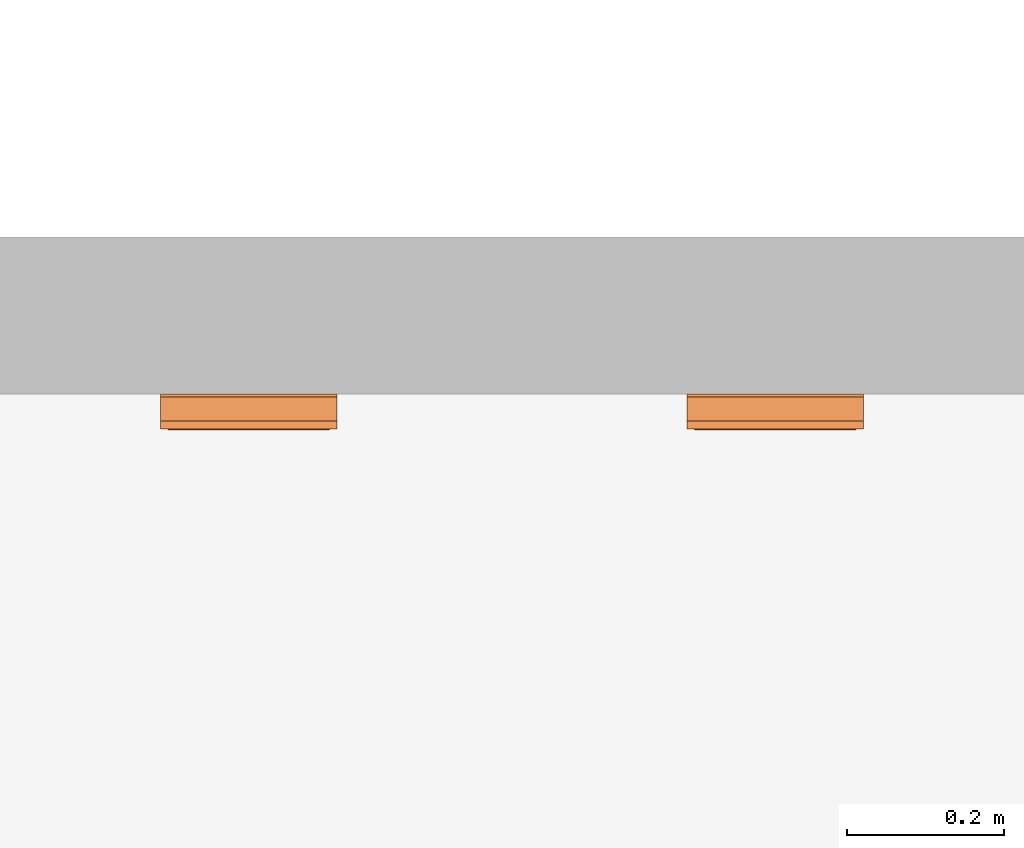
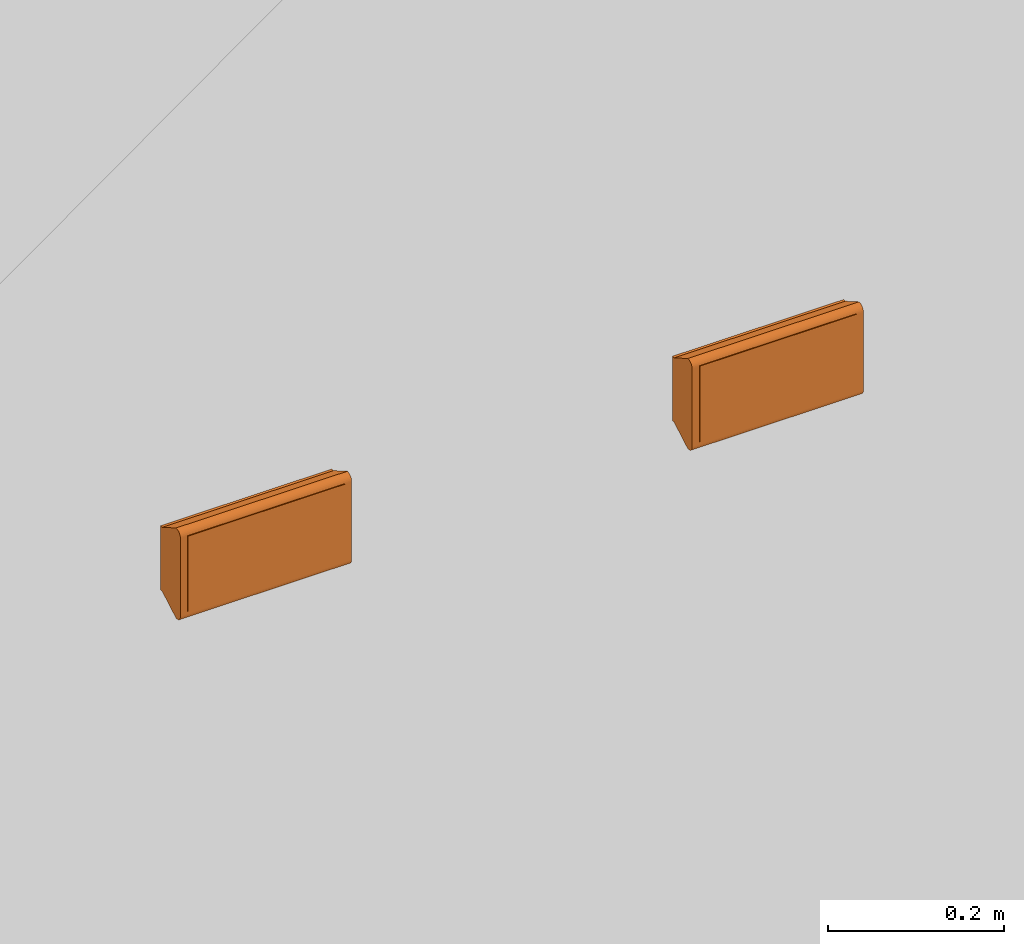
# One storey, part 66 of 197: 2 proxies.
"""IFC2X3 building model written with IfcOpenShell, lengths in metres."""

from ifc_helpers import new_model, entity, si_unit, converted_unit, direction, frame, frame_2d, origin, place, context, subcontext, project, spatial, polyline, circle_curve, parameter, trimmed, segment, composite_curve, circle, outline, extrude, source, transform, mapped, material, material_list, type_object, type_shapes, element, save


model = new_model("IFC2X3")

# Units and contexts
model_context = context("Model", 3, precision=1e-05, world=origin(), true_north=direction((6.123031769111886e-17, 1.0)))
body_context = subcontext(model_context, "Body", "Model", "MODEL_VIEW")
ifc_project = project(units=[si_unit("LENGTHUNIT", "METRE"), converted_unit("PLANEANGLEUNIT", "DEGREE", entity("IfcPlaneAngleMeasure", 0.017453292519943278), si_unit("PLANEANGLEUNIT", "RADIAN"), dimensions=[0, 0, 0, 0, 0, 0, 0]), si_unit("AREAUNIT", "SQUARE_METRE")], contexts=[model_context])

# Site, building, storey
site_placement = place(None, origin())
site = spatial("IfcSite", under=ifc_project, at=site_placement, Name="Default", CompositionType="ELEMENT")
building_placement = place(site_placement, origin())
building = spatial("IfcBuilding", under=site, at=building_placement, CompositionType="ELEMENT")
storey_placement = place(building_placement, origin())
storey = spatial("IfcBuildingStorey", under=building, at=storey_placement, Name="Niveau 0", CompositionType="ELEMENT", Elevation=0.0)

# Proxies
ifc_material_1 = material(Name="BETCE-ENVELOPPE BAES-BLANC")
ifc_material_2 = material(Name="BETCE-ETIQUETTE-VERT 0-193-0")
ifc_material_3 = material(Name="BETCE-VITRE BAES-BLEU")
ifc_material_list = material_list([ifc_material_1, ifc_material_2, ifc_material_3])
building_element_proxy_type_1 = type_object("IfcBuildingElementProxyType", Name="Eclairage de sécurité saillie étanche mur:GAUCHE", PredefinedType="NOTDEFINED", material=ifc_material_list)
shared_shape_1 = source(origin(), body_context, "Body", "SweptSolid", [
    extrude(outline(polyline([(-0.028959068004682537, -0.03330292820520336), (0.0122311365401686, -0.03330292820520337), (0.029966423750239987, -0.012907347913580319), (0.00310324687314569, -0.012907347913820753), (0.03240502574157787, 0.020789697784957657), (0.016088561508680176, 0.034977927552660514), (-0.013213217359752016, 0.0012808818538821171), (-0.016943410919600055, 0.02788381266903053), (-0.03467869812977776, 0.007488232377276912), (-0.028959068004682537, -0.03330292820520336)])), frame((-0.045353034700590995, -0.04599999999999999, 0.0), z_axis=(0.0, 1.0, 0.0), x_axis=(0.6561787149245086, 0.0, 0.7546055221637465)), (0.0, 0.0, 1.0), 0.0010000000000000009),
    extrude(outline(composite_curve([segment(trimmed(circle_curve(frame_2d((0.007847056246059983, -0.014059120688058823), x_axis=(-0.6437060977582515, 0.7652728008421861)), 0.0006110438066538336), [parameter(99.86253538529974)], [parameter(179.99999999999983)], True, "PARAMETER"), True, "CONTINUOUS"), segment(trimmed(circle_curve(frame_2d((0.007847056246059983, -0.014059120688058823), x_axis=(-0.6437060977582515, 0.7652728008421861)), 0.0006110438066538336), [parameter(179.99999999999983)], [parameter(260.13746546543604)], True, "PARAMETER"), True, "CONTINUOUS"), segment(polyline([(0.008375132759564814, -0.013751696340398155), (0.001174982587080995, -0.001383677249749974)]), True, "CONTINUOUS"), segment(trimmed(circle_curve(frame_2d((0.0037627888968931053, -0.0003180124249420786), x_axis=(-0.6437060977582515, 0.7652728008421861)), 0.002798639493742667), [parameter(3.811576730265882e-11)], [parameter(72.31324887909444)], True, "PARAMETER"), False, "CONTINUOUS"), segment(polyline([(0.0019612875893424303, 0.0018237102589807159), (0.015386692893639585, 0.013116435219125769)]), True, "CONTINUOUS"), segment(polyline([(0.015386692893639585, 0.013116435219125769), (0.0035080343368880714, 0.027238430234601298)]), True, "CONTINUOUS"), segment(polyline([(0.0035080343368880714, 0.027238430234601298), (-0.024968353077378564, 0.0032856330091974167)]), True, "CONTINUOUS"), segment(polyline([(-0.024968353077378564, 0.0032856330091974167), (-0.021131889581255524, -0.001275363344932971)]), True, "CONTINUOUS"), segment(polyline([(-0.021131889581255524, -0.001275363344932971), (0.007453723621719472, -0.01452673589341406)]), True, "CONTINUOUS")], self_intersect=False)), frame((0.04943108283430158, -0.04599999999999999, -0.024210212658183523), z_axis=(0.0, 1.0, 0.0), x_axis=(0.7652728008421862, 0.0, 0.6437060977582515)), (0.0, 0.0, 1.0), 0.001000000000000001),
    extrude(outline(composite_curve([segment(polyline([(-0.011174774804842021, -0.003797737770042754), (-0.011174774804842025, -0.010138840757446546)]), True, "CONTINUOUS"), segment(polyline([(-0.011174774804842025, -0.010138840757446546), (0.03194487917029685, -0.010138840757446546)]), True, "CONTINUOUS"), segment(polyline([(0.03194487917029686, -0.010138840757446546), (0.03194487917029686, -0.0024869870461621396)]), True, "CONTINUOUS"), segment(polyline([(0.03194487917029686, -0.0024869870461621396), (0.026012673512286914, -0.0024869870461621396)]), True, "CONTINUOUS"), segment(polyline([(0.026012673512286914, -0.0024869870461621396), (-0.00566103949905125, 0.01043216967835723)]), True, "CONTINUOUS"), segment(trimmed(circle_curve(frame_2d((-0.0076628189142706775, 0.006850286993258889), x_axis=(1.0, 0.0)), 0.004103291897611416), [parameter(60.800818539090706)], [parameter(115.83024310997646)], True, "PARAMETER"), True, "CONTINUOUS"), segment(polyline([(-0.009450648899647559, 0.010543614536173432), (-0.02014056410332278, 0.005368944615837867)]), True, "CONTINUOUS"), segment(trimmed(circle_curve(frame_2d((-0.01977914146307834, 0.004900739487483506), x_axis=(1.0, 0.0)), 0.0005914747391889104), [parameter(127.66570843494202)], [parameter(232.33429156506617)], True, "PARAMETER"), True, "CONTINUOUS"), segment(polyline([(-0.02014056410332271, 0.004432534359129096), (-0.012160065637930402, -0.0017278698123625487)]), True, "CONTINUOUS"), segment(trimmed(circle_curve(frame_2d((-0.013841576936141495, -0.003797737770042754), x_axis=(1.0, 0.0)), 0.0026668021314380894), [parameter(7.124442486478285e-13)], [parameter(50.91041679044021)], True, "PARAMETER"), False, "CONTINUOUS")], self_intersect=False)), frame((0.0281756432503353, -0.046, -0.010852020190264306), z_axis=(0.0, -1.0, 0.0), x_axis=(0.0, 0.0, -1.0)), (0.0, 0.0, -1.0), 0.001000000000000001),
    extrude(outline(composite_curve([segment(polyline([(-0.031714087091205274, -0.031123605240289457), (0.019898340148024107, -0.031123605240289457)]), True, "CONTINUOUS"), segment(polyline([(0.019898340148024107, -0.031123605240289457), (0.01989834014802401, 0.026433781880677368)]), True, "CONTINUOUS"), segment(polyline([(0.01989834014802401, 0.026433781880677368), (0.006609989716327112, 0.026433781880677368)]), True, "CONTINUOUS"), segment(trimmed(circle_curve(frame_2d((0.006609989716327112, 0.02583378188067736), x_axis=(0.0, 1.0)), 0.0006000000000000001), [parameter(0.0)], [parameter(83.97510158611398)], True, "PARAMETER"), True, "CONTINUOUS"), segment(polyline([(0.006013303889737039, 0.025896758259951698), (0.004507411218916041, 0.011628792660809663)]), True, "CONTINUOUS"), segment(trimmed(circle_curve(frame_2d((-0.009425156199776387, 0.013099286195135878), x_axis=(0.0, 1.0)), 0.014009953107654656), [parameter(240.55607644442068)], [parameter(263.9751015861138)], True, "PARAMETER"), False, "CONTINUOUS"), segment(polyline([(0.002775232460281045, 0.006212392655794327), (-0.003131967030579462, -0.00515324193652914)]), True, "CONTINUOUS"), segment(polyline([(-0.003131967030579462, -0.00515324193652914), (0.0052180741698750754, -0.0051532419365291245)]), True, "CONTINUOUS"), segment(polyline([(0.0052180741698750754, -0.0051532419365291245), (0.011569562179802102, 0.0044364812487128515)]), True, "CONTINUOUS"), segment(trimmed(circle_curve(frame_2d((0.013690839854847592, 0.002734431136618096), x_axis=(0.0, 1.0)), 0.0027197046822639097), [parameter(327.3277331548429)], [parameter(51.25747909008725)], True, "PARAMETER"), False, "CONTINUOUS"), segment(trimmed(circle_curve(frame_2d((0.013690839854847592, 0.0027344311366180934), x_axis=(0.0, 1.0)), 0.0027197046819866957), [parameter(243.39798722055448)], [parameter(327.327733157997)], True, "PARAMETER"), False, "CONTINUOUS"), segment(polyline([(0.016122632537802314, 0.0015165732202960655), (0.00885761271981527, -0.009515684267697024)]), True, "CONTINUOUS"), segment(trimmed(circle_curve(frame_2d((0.004813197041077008, -0.005807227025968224), x_axis=(0.0, 1.0)), 0.0054872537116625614), [parameter(181.8824185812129)], [parameter(227.48126930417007)], True, "PARAMETER"), False, "CONTINUOUS"), segment(polyline([(0.004993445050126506, -0.011291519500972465), (-0.009885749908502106, -0.011291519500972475)]), True, "CONTINUOUS"), segment(trimmed(circle_curve(frame_2d((-0.009885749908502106, 0.0017012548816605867), x_axis=(0.0, 1.0)), 0.012992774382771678), [parameter(133.55500193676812)], [parameter(179.9999999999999)], True, "PARAMETER"), False, "CONTINUOUS"), segment(polyline([(-0.019301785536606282, -0.007251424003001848), (-0.02587529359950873, 0.0021607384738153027)]), True, "CONTINUOUS"), segment(polyline([(-0.02587529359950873, 0.0021607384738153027), (-0.03171408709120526, 0.0021607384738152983)]), True, "CONTINUOUS"), segment(polyline([(-0.03171408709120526, 0.0021607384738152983), (-0.031714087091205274, -0.031123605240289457)]), True, "CONTINUOUS")], self_intersect=False), holes=[composite_curve([segment(trimmed(circle_curve(frame_2d((-0.015960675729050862, -0.017960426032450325), x_axis=(0.0, 1.0)), 0.005405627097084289), [parameter(269.999999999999)], [parameter(359.99999999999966)], True, "PARAMETER"), False, "CONTINUOUS"), segment(trimmed(circle_curve(frame_2d((-0.015960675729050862, -0.017960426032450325), x_axis=(0.0, 1.0)), 0.005405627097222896), [parameter(180.00000000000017)], [parameter(270.0)], True, "PARAMETER"), False, "CONTINUOUS"), segment(trimmed(circle_curve(frame_2d((-0.015960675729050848, -0.017960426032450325), x_axis=(0.0, 1.0)), 0.005405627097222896), [parameter(89.99999999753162)], [parameter(179.9999999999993)], True, "PARAMETER"), False, "CONTINUOUS"), segment(trimmed(circle_curve(frame_2d((-0.015960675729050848, -0.017960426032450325), x_axis=(0.0, 1.0)), 0.005405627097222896), [parameter(359.99999999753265)], [parameter(89.99999999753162)], True, "PARAMETER"), False, "CONTINUOUS")], self_intersect=False)]), frame((0.04975088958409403, -0.04599999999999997, 0.008704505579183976), z_axis=(0.0, 1.0, 0.0), x_axis=(1.0, 0.0, 0.0)), (0.0, 0.0, 1.0), 0.001000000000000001),
    extrude(outline(polyline([(-0.05249999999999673, -0.10299999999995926), (0.05249999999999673, -0.10299999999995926), (0.05249999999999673, 0.10299999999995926), (-0.05249999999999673, 0.10299999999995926), (-0.05249999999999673, -0.10299999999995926)]), holes=[polyline([(0.0, 0.08948593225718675), (0.03108235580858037, 0.062457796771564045), (0.031082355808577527, 0.035429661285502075), (0.010811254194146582, 0.05305670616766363), (0.010811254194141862, 0.0084015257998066), (-0.010811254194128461, 0.008401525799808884), (-0.01081125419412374, 0.05305670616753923), (-0.03108235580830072, 0.03542966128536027), (-0.031082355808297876, 0.062457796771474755), (0.0, 0.08948593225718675)]), composite_curve([segment(polyline([(-0.03982811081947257, -0.018036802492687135), (-0.006543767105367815, -0.018036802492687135)]), True, "CONTINUOUS"), segment(polyline([(-0.006543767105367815, -0.018036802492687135), (-0.006543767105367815, -0.02387559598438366)]), True, "CONTINUOUS"), segment(polyline([(-0.006543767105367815, -0.02387559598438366), (-0.01595592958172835, -0.0304491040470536)]), True, "CONTINUOUS"), segment(trimmed(circle_curve(frame_2d((-0.007003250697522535, -0.039865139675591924), x_axis=(-1.0, 0.0)), 0.012992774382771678), [parameter(313.55500193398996)], [parameter(3.5622212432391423e-13)], True, "PARAMETER"), True, "CONTINUOUS"), segment(polyline([(-0.019996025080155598, -0.039865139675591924), (-0.019996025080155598, -0.05474433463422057)]), True, "CONTINUOUS"), segment(trimmed(circle_curve(frame_2d((-0.014511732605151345, -0.05456408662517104), x_axis=(-1.0, 0.0)), 0.0054872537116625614), [parameter(1.8824185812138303)], [parameter(47.481269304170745)], True, "PARAMETER"), True, "CONTINUOUS"), segment(polyline([(-0.018220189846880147, -0.0586085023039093), (-0.0071879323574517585, -0.0658735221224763)]), True, "CONTINUOUS"), segment(trimmed(circle_curve(frame_2d((-0.005970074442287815, -0.06344172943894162), x_axis=(-1.0, 0.0)), 0.0027197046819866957), [parameter(63.39798724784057)], [parameter(147.32773315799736)], True, "PARAMETER"), True, "CONTINUOUS"), segment(trimmed(circle_curve(frame_2d((-0.005970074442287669, -0.06344172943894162), x_axis=(-1.0, 0.0)), 0.0027197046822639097), [parameter(147.3277331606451)], [parameter(231.25747905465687)], True, "PARAMETER"), True, "CONTINUOUS"), segment(polyline([(-0.0042680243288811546, -0.061320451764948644), (-0.013857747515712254, -0.05496896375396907)]), True, "CONTINUOUS"), segment(polyline([(-0.013857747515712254, -0.05496896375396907), (-0.013857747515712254, -0.046618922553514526)]), True, "CONTINUOUS"), segment(polyline([(-0.013857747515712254, -0.046618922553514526), (-0.002492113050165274, -0.052526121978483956)]), True, "CONTINUOUS"), segment(trimmed(circle_curve(frame_2d((0.004394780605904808, -0.04032573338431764), x_axis=(-1.0, 0.0)), 0.014009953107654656), [parameter(60.556075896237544)], [parameter(83.9751015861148)], True, "PARAMETER"), True, "CONTINUOUS"), segment(polyline([(0.0029242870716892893, -0.05425830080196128), (0.017192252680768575, -0.05576419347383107)]), True, "CONTINUOUS"), segment(trimmed(circle_curve(frame_2d((0.017129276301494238, -0.05636087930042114), x_axis=(-1.0, 0.0)), 0.0006000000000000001), [parameter(180.00000000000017)], [parameter(263.9751015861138)], True, "PARAMETER"), False, "CONTINUOUS"), segment(polyline([(0.017729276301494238, -0.05636087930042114), (0.017729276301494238, -0.06964922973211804)]), True, "CONTINUOUS"), segment(polyline([(0.017729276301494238, -0.06964922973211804), (-0.03982811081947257, -0.06964922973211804)]), True, "CONTINUOUS"), segment(polyline([(-0.03982811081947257, -0.06964922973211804), (-0.03982811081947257, -0.018036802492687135)]), True, "CONTINUOUS")], self_intersect=False), composite_curve([segment(polyline([(0.042796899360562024, -0.06964922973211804), (0.024343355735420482, -0.06964922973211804)]), True, "CONTINUOUS"), segment(polyline([(0.024343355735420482, -0.06964922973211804), (0.024343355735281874, -0.05210593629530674)]), True, "CONTINUOUS"), segment(trimmed(circle_curve(frame_2d((0.0215447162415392, -0.05210593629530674), x_axis=(-1.0, 0.0)), 0.002798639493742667), [parameter(179.99999999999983)], [parameter(252.3132488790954)], True, "PARAMETER"), True, "CONTINUOUS"), segment(polyline([(0.022394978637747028, -0.04943958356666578), (0.008295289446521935, -0.04698829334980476)]), True, "CONTINUOUS"), segment(trimmed(circle_curve(frame_2d((0.008399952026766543, -0.04638627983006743), x_axis=(-1.0, 0.0)), 0.0006110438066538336), [parameter(0.0)], [parameter(80.13746546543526)], True, "PARAMETER"), False, "CONTINUOUS"), segment(trimmed(circle_curve(frame_2d((0.008399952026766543, -0.04638627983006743), x_axis=(-1.0, 0.0)), 0.0006110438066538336), [parameter(279.86253451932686)], [parameter(0.0)], True, "PARAMETER"), False, "CONTINUOUS"), segment(polyline([(0.008295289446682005, -0.04578426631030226), (0.03683693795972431, -0.03243846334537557)]), True, "CONTINUOUS"), segment(polyline([(0.03683693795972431, -0.03243846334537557), (0.042796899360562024, -0.03243846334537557)]), True, "CONTINUOUS"), segment(polyline([(0.042796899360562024, -0.03243846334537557), (0.042796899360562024, -0.06964922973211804)]), True, "CONTINUOUS")], self_intersect=False), composite_curve([segment(polyline([(0.042796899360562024, -0.018036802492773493), (0.042796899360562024, -0.025688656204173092)]), True, "CONTINUOUS"), segment(polyline([(0.042796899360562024, -0.025688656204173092), (0.03686469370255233, -0.025688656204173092)]), True, "CONTINUOUS"), segment(polyline([(0.03686469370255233, -0.025688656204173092), (0.005190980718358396, -0.03860781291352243)]), True, "CONTINUOUS"), segment(trimmed(circle_curve(frame_2d((0.0031892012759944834, -0.03502593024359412), x_axis=(-1.0, 0.0)), 0.004103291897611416), [parameter(64.16975689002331)], [parameter(119.19918189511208)], True, "PARAMETER"), False, "CONTINUOUS"), segment(polyline([(0.001401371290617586, -0.03871925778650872), (-0.009288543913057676, -0.03354458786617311)]), True, "CONTINUOUS"), segment(trimmed(circle_curve(frame_2d((-0.008927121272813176, -0.03307638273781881), x_axis=(-1.0, 0.0)), 0.0005914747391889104), [parameter(307.6657084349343)], [parameter(52.33429156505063)], True, "PARAMETER"), False, "CONTINUOUS"), segment(polyline([(-0.009288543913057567, -0.032608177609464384), (-0.0013080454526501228, -0.02644777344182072)]), True, "CONTINUOUS"), segment(trimmed(circle_curve(frame_2d((-0.002989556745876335, -0.024377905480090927), x_axis=(-1.0, 0.0)), 0.0026668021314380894), [parameter(129.08958307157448)], [parameter(180.00000000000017)], True, "PARAMETER"), True, "CONTINUOUS"), segment(polyline([(-0.00032275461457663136, -0.02437790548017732), (-0.00032275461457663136, -0.018036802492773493)]), True, "CONTINUOUS"), segment(polyline([(-0.00032275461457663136, -0.018036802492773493), (0.042796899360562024, -0.018036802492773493)]), True, "CONTINUOUS")], self_intersect=False)]), frame((0.0, -0.046, 0.0), z_axis=(0.0, 1.0, 0.0), x_axis=(0.0, 0.0, -1.0)), (0.0, 0.0, 1.0), 0.001000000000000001),
    extrude(circle(Radius=0.005405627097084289, at=frame_2d((0.0, -2.3552360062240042e-14), x_axis=(1.0, 0.0))), frame((0.03379021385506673, -0.046, 0.0266649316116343), z_axis=(0.0, 1.0, 0.0), x_axis=(0.0, 0.0, 1.0)), (0.0, 0.0, 1.0), 0.001000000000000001),
    extrude(outline(composite_curve([segment(trimmed(circle_curve(frame_2d((-0.0020000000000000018, -0.054499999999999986), x_axis=(1.0, 0.0)), 0.008), [parameter(270.0000000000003)], [parameter(3.5622212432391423e-13)], True, "PARAMETER"), True, "CONTINUOUS"), segment(polyline([(0.005999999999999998, -0.05449999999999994), (0.005999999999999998, 0.05450000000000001)]), True, "CONTINUOUS"), segment(trimmed(circle_curve(frame_2d((-0.0020000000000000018, 0.05450000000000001), x_axis=(1.0, 0.0)), 0.008), [parameter(359.9999999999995)], [parameter(89.99999999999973)], True, "PARAMETER"), True, "CONTINUOUS"), segment(polyline([(-0.001999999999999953, 0.06250000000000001), (-0.003999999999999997, 0.06250000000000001)]), True, "CONTINUOUS"), segment(polyline([(-0.003999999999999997, 0.06250000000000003), (-0.003999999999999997, -0.062499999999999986)]), True, "CONTINUOUS"), segment(polyline([(-0.003999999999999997, -0.0625), (-0.0020000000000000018, -0.0625)]), True, "CONTINUOUS")], self_intersect=False)), frame((-0.1125, -0.039, -0.0019999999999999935), z_axis=(1.0, 0.0, 0.0), x_axis=(0.0, -1.0, 0.0)), (0.0, 0.0, 1.0), 0.22499999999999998),
    extrude(outline(polyline([(-0.0625, -0.02205897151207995), (0.0625, -0.02205897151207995), (0.04449999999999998, 0.009117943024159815), (0.04449999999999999, 0.01294102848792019), (-0.04449999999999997, 0.012941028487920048), (-0.04449999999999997, 0.009117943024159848), (-0.0625, -0.02205897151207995)])), frame((-0.1125, -0.012941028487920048, -0.002000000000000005), z_axis=(1.0, 0.0, 0.0), x_axis=(0.0, 0.0, -1.0)), (0.0, 0.0, 1.0), 0.225),
])
type_shapes(building_element_proxy_type_1, [shared_shape_1])
proxy_1_placement = place(storey_placement, frame((-482.27247282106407, 111.79035524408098, 1.0)))
element("IfcBuildingElementProxy", 1, at=proxy_1_placement, inside=storey, type_object=building_element_proxy_type_1, material=ifc_material_list, Name="Eclairage de sécurité saillie étanche mur:GAUCHE", ObjectType="Eclairage de sécurité saillie étanche mur:GAUCHE", context=body_context, shape_type="MappedRepresentation", body=[
    mapped(shared_shape_1, transform((0.0, 0.0, 0.0), scale=1.0)),
])
building_element_proxy_type_2 = type_object("IfcBuildingElementProxyType", Name="Eclairage de sécurité saillie étanche mur:GAUCHE/DROITE", PredefinedType="NOTDEFINED", material=ifc_material_list)
shared_shape_2 = source(origin(), body_context, "Body", "SweptSolid", [
    extrude(outline(polyline([(-0.028959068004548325, -0.033302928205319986), (0.012231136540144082, -0.03330292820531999), (0.029966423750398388, -0.01290734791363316), (0.003103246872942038, -0.012907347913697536), (0.03240502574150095, 0.02078969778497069), (0.01608856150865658, 0.034977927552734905), (-0.013213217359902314, 0.0012808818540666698), (-0.016943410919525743, 0.027883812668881), (-0.034678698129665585, 0.007488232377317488), (-0.028959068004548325, -0.033302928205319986)])), frame((0.04535303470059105, -0.04599999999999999, 0.0006823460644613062), z_axis=(0.0, 1.0, 0.0), x_axis=(-0.6561787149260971, 0.0, -0.7546055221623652)), (0.0, 0.0, 1.0), 0.0010000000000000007),
    extrude(outline(polyline([(-0.02895906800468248, -0.03330292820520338), (0.012231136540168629, -0.03330292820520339), (0.02996642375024, -0.012907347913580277), (0.003103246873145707, -0.012907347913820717), (0.03240502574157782, 0.020789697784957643), (0.016088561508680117, 0.03497792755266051), (-0.013213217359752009, 0.0012808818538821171), (-0.016943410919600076, 0.027883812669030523), (-0.03467869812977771, 0.0074882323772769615), (-0.02895906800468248, -0.03330292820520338)])), frame((-0.04535303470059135, -0.04599999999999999, 0.0006823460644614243), z_axis=(0.0, 1.0, 0.0), x_axis=(0.6561787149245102, 0.0, 0.7546055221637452)), (0.0, 0.0, 1.0), 0.0010000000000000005),
    extrude(outline(polyline([(-0.10299999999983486, -0.05249999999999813), (0.10299999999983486, -0.05249999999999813), (0.10299999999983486, 0.05249999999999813), (-0.10299999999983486, 0.05249999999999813), (-0.10299999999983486, -0.05249999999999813)]), holes=[polyline([(0.08948593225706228, 0.0), (0.06245779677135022, -0.031082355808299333), (0.035429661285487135, -0.031082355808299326), (0.05305670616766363, -0.010811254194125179), (0.008401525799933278, -0.010811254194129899), (0.008401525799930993, 0.010811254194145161), (0.05305670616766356, 0.010811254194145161), (0.0354296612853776, 0.03108235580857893), (0.06245779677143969, 0.03108235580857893), (0.08948593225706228, 0.0)]), polyline([(-0.08948593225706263, 0.0), (-0.062457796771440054, 0.031082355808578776), (-0.035429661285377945, 0.031082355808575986), (-0.053056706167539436, 0.010811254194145), (-0.008401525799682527, 0.010811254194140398), (-0.00840152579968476, -0.010811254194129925), (-0.05305670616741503, -0.010811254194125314), (-0.03542966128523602, -0.031082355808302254), (-0.06245779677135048, -0.031082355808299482), (-0.08948593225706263, 0.0)])]), frame((0.0, -0.046, 0.0006823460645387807), z_axis=(0.0, 1.0, 0.0), x_axis=(1.0, 0.0, 0.0)), (0.0, 0.0, 1.0), 0.001000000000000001),
    extrude(outline(composite_curve([segment(trimmed(circle_curve(frame_2d((-0.0020000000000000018, -0.054499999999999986), x_axis=(1.0, 0.0)), 0.008), [parameter(270.0000000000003)], [parameter(3.5622212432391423e-13)], True, "PARAMETER"), True, "CONTINUOUS"), segment(polyline([(0.005999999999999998, -0.05449999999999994), (0.005999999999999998, 0.05450000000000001)]), True, "CONTINUOUS"), segment(trimmed(circle_curve(frame_2d((-0.0020000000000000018, 0.05450000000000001), x_axis=(1.0, 0.0)), 0.008), [parameter(359.9999999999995)], [parameter(89.99999999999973)], True, "PARAMETER"), True, "CONTINUOUS"), segment(polyline([(-0.001999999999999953, 0.06250000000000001), (-0.003999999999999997, 0.06250000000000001)]), True, "CONTINUOUS"), segment(polyline([(-0.003999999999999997, 0.06250000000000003), (-0.003999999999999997, -0.062499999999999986)]), True, "CONTINUOUS"), segment(polyline([(-0.003999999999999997, -0.0625), (-0.0020000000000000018, -0.0625)]), True, "CONTINUOUS")], self_intersect=False)), frame((-0.1125, -0.039, -0.0019999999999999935), z_axis=(1.0, 0.0, 0.0), x_axis=(0.0, -1.0, 0.0)), (0.0, 0.0, 1.0), 0.22499999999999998),
    extrude(outline(polyline([(-0.0625, -0.02205897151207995), (0.0625, -0.02205897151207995), (0.04449999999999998, 0.009117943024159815), (0.04449999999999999, 0.01294102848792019), (-0.04449999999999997, 0.012941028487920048), (-0.04449999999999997, 0.009117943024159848), (-0.0625, -0.02205897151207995)])), frame((-0.1125, -0.012941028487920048, -0.002000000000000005), z_axis=(1.0, 0.0, 0.0), x_axis=(0.0, 0.0, -1.0)), (0.0, 0.0, 1.0), 0.225),
])
type_shapes(building_element_proxy_type_2, [shared_shape_2])
proxy_2_placement = place(storey_placement, frame((-481.6004728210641, 111.79035524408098, 1.0)))
element("IfcBuildingElementProxy", 2, at=proxy_2_placement, inside=storey, type_object=building_element_proxy_type_2, material=ifc_material_list, Name="Eclairage de sécurité saillie étanche mur:GAUCHE/DROITE", ObjectType="Eclairage de sécurité saillie étanche mur:GAUCHE/DROITE", context=body_context, shape_type="MappedRepresentation", body=[
    mapped(shared_shape_2, transform((0.0, 0.0, 0.0), scale=1.0)),
])

save(model, "model.ifc")
